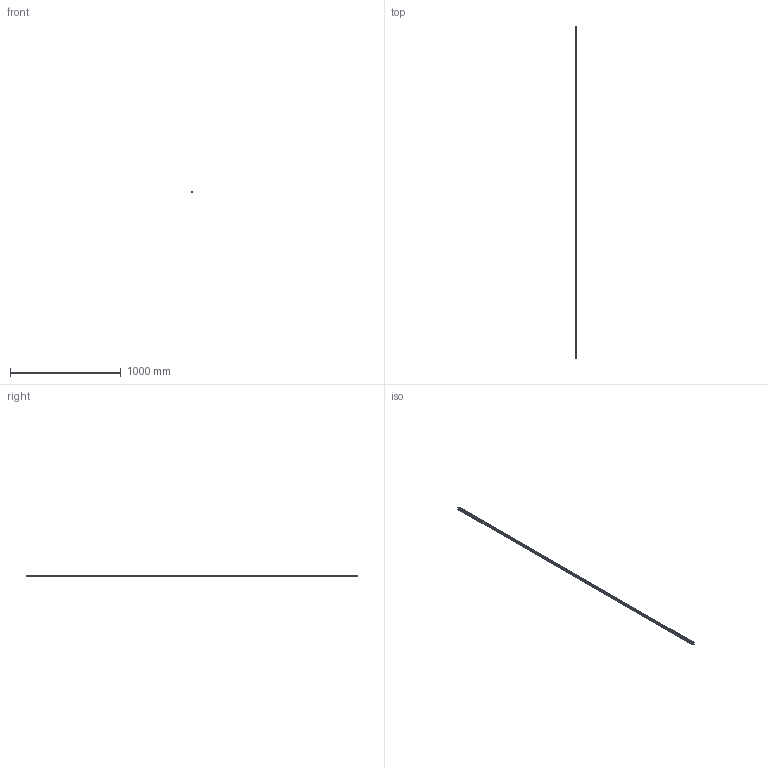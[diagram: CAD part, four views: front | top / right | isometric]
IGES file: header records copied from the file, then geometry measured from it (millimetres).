
Start section: Data from Parasolid IGES Translator 20.0.26, Copyright(c) 2006 Siemens P LM Software. All Rights Reserved.
Global section: file name: 9298812.igs; native system: By Siemens PLM Incorporated; preprocessor: XPlus GENERIC/IGES 20.0.26; author: Noname; organization: Noname; date: 20210826.183034; units: millimetre
Bounding box: 18 x 3000 x 18 mm (x, y, z)
Surface area: 431017.6 mm2 (no closed solid volume)
Topology: 0 solids, 0 shells, 42 faces, 240 edges, 240 vertices
Faces by surface type: extrusion 42
